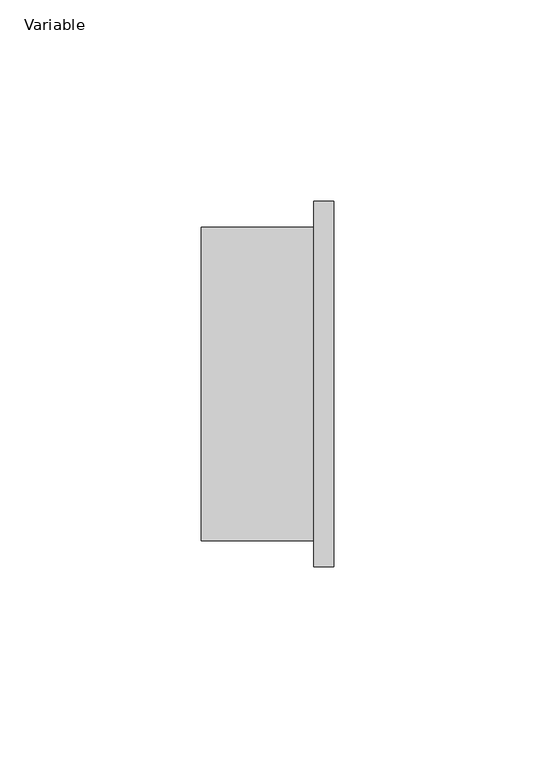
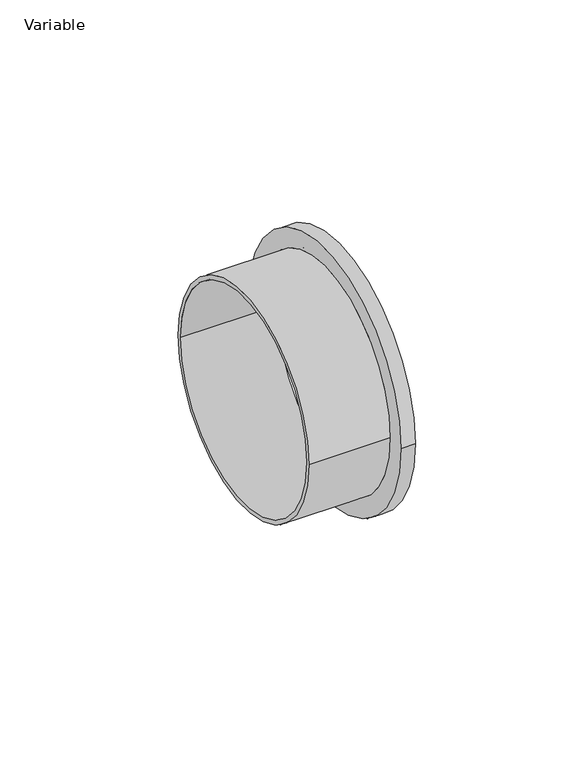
"""IFC4 building model written with IfcOpenShell, lengths in millimetres: pipe fitting geometry, AliaxisFR_Friaphon_TransitionAdaptor_FR : Variable."""

from ifc_helpers import new_model, si_unit, frame, origin, place, context, project, spatial, polyline, circle_curve, source, transform, mapped, element, save
from ifc_brep_helpers import plane_surface, cylinder_surface, revolved_surface, advanced_brep


def variable_b70d02e2(model_context):
    return source(origin(), model_context, "Body", "AdvancedBrep", [
        advanced_brep(
        [(33.0, -45.5, 0.0), (33.0, 45.5, 0.0), (33.0, -37.5, 0.0), (33.0, 37.5, 0.0), (0.0, -39.0, 0.0), (0.0, 39.0, 0.0), (0.0, -37.5, 0.0), (0.0, 37.5, 0.0), (28.0, 39.0, 0.0), (28.0, -39.0, 0.0), (28.0, -45.5, 0.0), (28.0, 45.5, 0.0)],
        [
            (0, 1, circle_curve(frame((33.0, 0.0, 0.0), z_axis=(1.0, 0.0, 0.0), x_axis=(0.0, 1.0, 0.0)), 45.5)),
            (1, 0, circle_curve(frame((33.0, 0.0, 0.0), z_axis=(1.0, 0.0, 0.0), x_axis=(0.0, 1.0, 0.0)), 45.5)),
            (2, 3, circle_curve(frame((33.0, 0.0, 0.0), z_axis=(-1.0, 0.0, 0.0), x_axis=(0.0, 1.0, 0.0)), 37.5)),
            (3, 2, circle_curve(frame((33.0, 0.0, 0.0), z_axis=(-1.0, 0.0, 0.0), x_axis=(0.0, 1.0, 0.0)), 37.5)),
            (4, 5, circle_curve(frame((0.0, 0.0, 0.0), z_axis=(-1.0, 0.0, 0.0), x_axis=(0.0, 1.0, 0.0)), 39.0)),
            (5, 4, circle_curve(frame((0.0, 0.0, 0.0), z_axis=(-1.0, 0.0, 0.0), x_axis=(0.0, 1.0, 0.0)), 39.0)),
            (6, 7, circle_curve(frame((0.0, 0.0, 0.0), z_axis=(1.0, 0.0, 0.0), x_axis=(0.0, 1.0, 0.0)), 37.5)),
            (7, 6, circle_curve(frame((0.0, 0.0, 0.0), z_axis=(1.0, 0.0, 0.0), x_axis=(0.0, 1.0, 0.0)), 37.5)),
            (2, 6),
            (7, 3),
            (5, 8),
            (8, 9, circle_curve(frame((28.0, 0.0, 0.0), z_axis=(-1.0, 0.0, 0.0), x_axis=(0.0, 1.0, 0.0)), 39.0)),
            (9, 4),
            (9, 8, circle_curve(frame((28.0, 0.0, 0.0), z_axis=(-1.0, 0.0, 0.0), x_axis=(0.0, 1.0, 0.0)), 39.0)),
            (10, 11, circle_curve(frame((28.0, 0.0, 0.0), z_axis=(-1.0, 0.0, 0.0), x_axis=(0.0, 1.0, 0.0)), 45.5)),
            (11, 10, circle_curve(frame((28.0, 0.0, 0.0), z_axis=(-1.0, 0.0, 0.0), x_axis=(0.0, 1.0, 0.0)), 45.5)),
            (0, 10),
            (11, 1),
        ],
        [
            plane_surface(frame((33.0, 37.5, 0.0), z_axis=(1.0, 0.0, 0.0), x_axis=(0.0, 0.0, -1.0))),
            plane_surface(frame((0.0, 37.5, 0.0), z_axis=(-1.0, 0.0, 0.0), x_axis=(0.0, 0.0, 1.0))),
            revolved_surface(polyline([(0.0, 37.5, 0.0), (33.0, 37.5, 0.0)]), (0.0, 0.0, 0.0), (-1.0, 0.0, 0.0)),
            cylinder_surface(frame((0.0, 0.0, 0.0), z_axis=(1.0, 0.0, 0.0), x_axis=(0.0, 1.0, 0.0)), 39.0),
            plane_surface(frame((28.0, 45.5, 0.0), z_axis=(-1.0, 0.0, 0.0), x_axis=(0.0, 0.0, -1.0))),
            cylinder_surface(frame((28.0, 0.0, 0.0), z_axis=(1.0, 0.0, 0.0), x_axis=(0.0, 1.0, 0.0)), 45.5),
        ],
        [
            (0, [[1, 2], [3, 4]]),
            (1, [[5, 6], [7, 8]]),
            (2, [[-3, 9, -8, 10]]),
            (2, [[-4, -10, -7, -9]]),
            (3, [[-6, 11, 12, 13]]),
            (3, [[-5, -13, 14, -11]]),
            (4, [[15, 16], [-12, -14]]),
            (5, [[-1, 17, -16, 18]]),
            (5, [[-2, -18, -15, -17]]),
        ],
    ),
    ])


if __name__ == "__main__":
    model = new_model("IFC4")
    model_context = context("Model", 3, world=origin())
    ifc_project = project(units=[si_unit("LENGTHUNIT", "METRE", prefix="MILLI")], contexts=[model_context])
    site = spatial("IfcSite", under=ifc_project)
    building = spatial("IfcBuilding", under=site)
    placement = place(None, origin())
    variable_shape = variable_b70d02e2(model_context)
    element("IfcPipeFitting", 1, ObjectType="AliaxisFR_Friaphon_TransitionAdaptor_FR : Variable", at=placement, inside=building, context=model_context, shape_type="MappedRepresentation", body=[
        mapped(variable_shape, transform((0.0, 0.0, 0.0), x_axis=(1.0, 0.0, 0.0), y_axis=(0.0, 1.0, 0.0), z_axis=(0.0, 0.0, 1.0))),
    ])
    save(model, "model.ifc")
